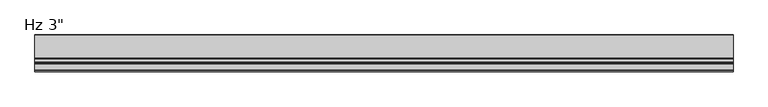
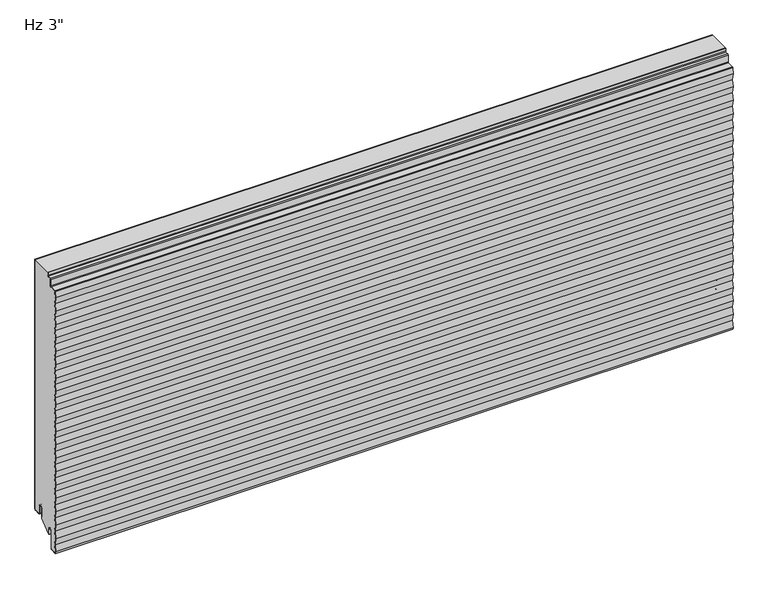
"""IFC4 building model written with IfcOpenShell, lengths in millimetres: plate geometry."""

from ifc_helpers import new_model, si_unit, point, frame, frame_2d, origin, place, context, project, spatial, polyline, circle_curve, trimmed, segment, composite_curve, outline, extrude, source, transform, mapped, element, save


def plate_cbad6302(model_context):
    return source(origin(), model_context, "Body", "SweptSolid", [
        extrude(outline(composite_curve([segment(trimmed(circle_curve(frame_2d((-21.43125, 19.05)), 4.96875), [point((-16.4625, 19.05))], [point((-26.4, 19.05))], True, "CARTESIAN"), True, "CONTINUOUS"), segment(polyline([(-26.4, 19.05), (-26.4, -3.1323422), (-49.2157227, -23.01875), (-50.8, -23.01875), (-50.8, -13.5080174), (-51.59375, -13.5080174), (-51.3875, -11.9205174)]), True, "CONTINUOUS"), segment(trimmed(circle_curve(frame_2d((-56.35625, -11.9205174)), 4.96875), [point((-51.3875, -11.9205174))], [point((-61.325, -11.9205174))], True, "CARTESIAN"), True, "CONTINUOUS"), segment(polyline([(-61.325, -11.9205174), (-61.325, -50.1038221)]), True, "CONTINUOUS"), segment(trimmed(circle_curve(frame_2d((-62.70625, -50.1038221)), 1.38125), [point((-61.325, -50.1038221))], [point((-62.633961, -51.4831791))], False, "CARTESIAN"), True, "CONTINUOUS"), segment(polyline([(-62.633961, -51.4831791), (-75.8062471, -52.1735094), (-76.3378194, -48.8511825), (-73.8994194, -33.6111825), (-76.3378194, -18.3711825), (-73.8994194, -3.1311825), (-76.3378194, 12.1088175), (-73.8994194, 27.3488175), (-76.3378194, 42.5888175), (-73.8994194, 57.8288175), (-76.3378194, 73.0688175), (-73.8994194, 88.3088175), (-76.3378194, 103.5488175), (-73.8994194, 118.7888175), (-76.3378194, 134.0288175), (-73.8994194, 149.2688175), (-76.3378194, 164.5088175), (-73.8994194, 179.7488175), (-76.3378194, 194.9888175), (-73.8994194, 210.2288175), (-76.3378194, 225.4688175), (-73.8994194, 240.7088175), (-76.3378194, 255.9488175), (-73.8994194, 271.1888175), (-76.3378194, 286.4288175), (-73.8994194, 301.6688175), (-76.3378194, 316.9088175), (-73.8994194, 332.1488175), (-76.3378194, 347.3888175), (-73.8994194, 362.6288175), (-76.3378194, 377.8688175), (-73.8994194, 393.1088175), (-76.3378194, 408.3488175), (-73.8994194, 423.5888175), (-76.3378194, 438.8288175), (-73.8994194, 454.0688175), (-76.3378194, 469.3088175), (-73.8994194, 484.5488175), (-76.3378194, 499.7888175), (-73.8994194, 515.0288175), (-76.3054086, 530.06625), (-74.2673048, 542.8043985), (-60.1895807, 543.5421807)]), True, "CONTINUOUS"), segment(trimmed(circle_curve(frame_2d((-60.325, 546.1261347)), 2.5875), [point((-60.1895807, 543.5421807))], [point((-57.7375, 546.1261347))], True, "CARTESIAN"), True, "CONTINUOUS"), segment(polyline([(-57.7375, 546.1261347), (-57.7375, 560.2824411)]), True, "CONTINUOUS"), segment(trimmed(circle_curve(frame_2d((-56.35625, 560.2824411)), 1.38125), [point((-57.7375, 560.2824411))], [point((-56.428539, 561.6617981))], False, "CARTESIAN"), True, "CONTINUOUS"), segment(polyline([(-56.428539, 561.6617981), (-50.6645807, 561.9638744)]), True, "CONTINUOUS"), segment(trimmed(circle_curve(frame_2d((-50.8, 564.5478283)), 2.5875), [point((-50.6645807, 561.9638744))], [point((-48.2125, 564.5478283))], True, "CARTESIAN"), True, "CONTINUOUS"), segment(polyline([(-48.2125, 564.5478283), (-48.2125, 571.2), (-1.0, 571.2), (-1.0, 3.175)]), True, "CONTINUOUS"), segment(trimmed(circle_curve(frame_2d((-2.38125, 3.175)), 1.38125), [point((-1.0, 3.175))], [point((-2.38125, 1.79375))], False, "CARTESIAN"), True, "CONTINUOUS"), segment(polyline([(-2.38125, 1.79375), (-15.08125, 1.79375)]), True, "CONTINUOUS"), segment(trimmed(circle_curve(frame_2d((-15.08125, 3.175)), 1.38125), [point((-15.08125, 1.79375))], [point((-16.4625, 3.175))], False, "CARTESIAN"), True, "CONTINUOUS"), segment(polyline([(-16.4625, 3.175), (-16.4625, 19.05)]), True, "CONTINUOUS")], self_intersect=False)), frame((-730.0, 0.0, 0.0), z_axis=(1.0, 0.0, 0.0), x_axis=(0.0, 1.0, 0.0)), (0.0, 0.0, 1.0), 1460.0),
        extrude(outline(composite_curve([segment(polyline([(-25.4, 0.79375), (-26.4, 0.79375), (-26.4, 19.05)]), True, "CONTINUOUS"), segment(trimmed(circle_curve(frame_2d((-21.43125, 19.05)), 4.96875), [point((-26.4, 19.05))], [point((-16.4625, 19.05))], False, "CARTESIAN"), True, "CONTINUOUS"), segment(polyline([(-16.4625, 19.05), (-16.4625, 3.175)]), True, "CONTINUOUS"), segment(trimmed(circle_curve(frame_2d((-15.08125, 3.175)), 1.38125), [point((-16.4625, 3.175))], [point((-15.08125, 1.79375))], True, "CARTESIAN"), True, "CONTINUOUS"), segment(polyline([(-15.08125, 1.79375), (-2.38125, 1.79375)]), True, "CONTINUOUS"), segment(trimmed(circle_curve(frame_2d((-2.38125, 3.175)), 1.38125), [point((-2.38125, 1.79375))], [point((-1.0, 3.175))], True, "CARTESIAN"), True, "CONTINUOUS"), segment(polyline([(-1.0, 3.175), (-1.0, 571.2), (0.0, 571.2), (0.0, 3.175)]), True, "CONTINUOUS"), segment(trimmed(circle_curve(frame_2d((-2.38125, 3.175)), 2.38125), [point((0.0, 3.175))], [point((-2.38125, 0.79375))], False, "CARTESIAN"), True, "CONTINUOUS"), segment(polyline([(-2.38125, 0.79375), (-15.08125, 0.79375)]), True, "CONTINUOUS"), segment(trimmed(circle_curve(frame_2d((-15.08125, 3.175)), 2.38125), [point((-15.08125, 0.79375))], [point((-17.4625, 3.175))], False, "CARTESIAN"), True, "CONTINUOUS"), segment(polyline([(-17.4625, 3.175), (-17.4625, 19.05)]), True, "CONTINUOUS"), segment(trimmed(circle_curve(frame_2d((-21.43125, 19.05)), 3.96875), [point((-17.4625, 19.05))], [point((-25.4, 19.05))], True, "CARTESIAN"), True, "CONTINUOUS"), segment(polyline([(-25.4, 19.05), (-25.4, 0.79375)]), True, "CONTINUOUS")], self_intersect=False)), frame((-730.0, 0.0, 0.0), z_axis=(1.0, 0.0, 0.0), x_axis=(0.0, 1.0, 0.0)), (0.0, 0.0, 1.0), 1460.0),
        extrude(outline(composite_curve([segment(trimmed(circle_curve(frame_2d((-51.59375, -23.2314549)), 0.79375), [point((-50.8, -23.2314549))], [point((-52.3875, -23.2314549))], False, "CARTESIAN"), True, "CONTINUOUS"), segment(polyline([(-52.3875, -23.2314549), (-52.3875, -11.9205174)]), True, "CONTINUOUS"), segment(trimmed(circle_curve(frame_2d((-56.35625, -11.9205174)), 3.96875), [point((-52.3875, -11.9205174))], [point((-60.325, -11.9205174))], True, "CARTESIAN"), True, "CONTINUOUS"), segment(polyline([(-60.325, -11.9205174), (-60.325, -50.1038221)]), True, "CONTINUOUS"), segment(trimmed(circle_curve(frame_2d((-62.70625, -50.1038221)), 2.38125), [point((-60.325, -50.1038221))], [point((-62.581625, -52.4818086))], False, "CARTESIAN"), True, "CONTINUOUS"), segment(polyline([(-62.581625, -52.4818086), (-76.7543553, -53.22457), (-77.4509395, -48.8709186), (-75.0125395, -33.6309186), (-77.4509395, -18.3909186), (-75.0125395, -3.1509186), (-77.4509395, 12.0890814), (-75.0125395, 27.3290814), (-77.4509395, 42.5690814), (-75.0125395, 57.8090814), (-77.4509395, 73.0490814), (-75.0125395, 88.2890814), (-77.4509395, 103.5290814), (-75.0125395, 118.7690814), (-77.4509395, 134.0090814), (-75.0125395, 149.2490814), (-77.4509395, 164.4890814), (-75.0125395, 179.7290814), (-77.4509395, 194.9690814), (-75.0125395, 210.2090814), (-77.4509395, 225.4490814), (-75.0125395, 240.6890814), (-77.4509395, 255.9290814), (-75.0125395, 271.1690814), (-77.4509395, 286.4090814), (-75.0125395, 301.6490814), (-77.4509395, 316.8890814), (-75.0125395, 332.1290814), (-77.4509395, 347.3690814), (-75.0125395, 362.6090814), (-77.4509395, 377.8490814), (-75.0125395, 393.0890814), (-77.4509395, 408.3290814), (-75.0125395, 423.5690814), (-77.4509395, 438.8090814), (-75.0125395, 454.0490814), (-77.4509395, 469.2890814), (-75.0125395, 484.5290814), (-77.4509395, 499.7690814), (-75.0125395, 515.0090814), (-77.4185287, 530.0465139), (-75.4278537, 542.4882328)]), True, "CONTINUOUS"), segment(trimmed(circle_curve(frame_2d((-73.8602917, 542.2374229)), 1.5875), [point((-75.4278537, 542.4882328))], [point((-73.943375, 543.8227473))], False, "CARTESIAN"), True, "CONTINUOUS"), segment(polyline([(-73.943375, 543.8227473), (-60.2419167, 544.5408103)]), True, "CONTINUOUS"), segment(trimmed(circle_curve(frame_2d((-60.325, 546.1261347)), 1.5875), [point((-60.2419167, 544.5408103))], [point((-58.7375, 546.1261347))], True, "CARTESIAN"), True, "CONTINUOUS"), segment(polyline([(-58.7375, 546.1261347), (-58.7375, 560.2824411)]), True, "CONTINUOUS"), segment(trimmed(circle_curve(frame_2d((-56.35625, 560.2824411)), 2.38125), [point((-58.7375, 560.2824411))], [point((-56.480875, 562.6604276))], False, "CARTESIAN"), True, "CONTINUOUS"), segment(polyline([(-56.480875, 562.6604276), (-50.7169167, 562.9625039)]), True, "CONTINUOUS"), segment(trimmed(circle_curve(frame_2d((-50.8, 564.5478283)), 1.5875), [point((-50.7169167, 562.9625039))], [point((-49.2125, 564.5478283))], True, "CARTESIAN"), True, "CONTINUOUS"), segment(polyline([(-49.2125, 564.5478283), (-49.2125, 571.2), (-48.2125, 571.2), (-48.2125, 564.5478283)]), True, "CONTINUOUS"), segment(trimmed(circle_curve(frame_2d((-50.8, 564.5478283)), 2.5875), [point((-48.2125, 564.5478283))], [point((-50.6645807, 561.9638744))], False, "CARTESIAN"), True, "CONTINUOUS"), segment(polyline([(-50.6645807, 561.9638744), (-56.428539, 561.6617981)]), True, "CONTINUOUS"), segment(trimmed(circle_curve(frame_2d((-56.35625, 560.2824411)), 1.38125), [point((-56.428539, 561.6617981))], [point((-57.7375, 560.2824411))], True, "CARTESIAN"), True, "CONTINUOUS"), segment(polyline([(-57.7375, 560.2824411), (-57.7375, 546.1261347)]), True, "CONTINUOUS"), segment(trimmed(circle_curve(frame_2d((-60.325, 546.1261347)), 2.5875), [point((-57.7375, 546.1261347))], [point((-60.1895807, 543.5421807))], False, "CARTESIAN"), True, "CONTINUOUS"), segment(polyline([(-60.1895807, 543.5421807), (-73.891039, 542.8241177)]), True, "CONTINUOUS"), segment(trimmed(circle_curve(frame_2d((-73.8602917, 542.2374229)), 0.5875), [point((-73.891039, 542.8241177))], [point((-74.440413, 542.3302423))], True, "CARTESIAN"), True, "CONTINUOUS"), segment(polyline([(-74.440413, 542.3302423), (-76.4058096, 530.0465139), (-73.9998204, 515.0090814), (-76.4382204, 499.7690814), (-73.9998204, 484.5290814), (-76.4382204, 469.2890814), (-73.9998204, 454.0490814), (-76.4382204, 438.8090814), (-73.9998204, 423.5690814), (-76.4382204, 408.3290814), (-73.9998204, 393.0890814), (-76.4382204, 377.8490814), (-73.9998204, 362.6090814), (-76.4382204, 347.3690814), (-73.9998204, 332.1290814), (-76.4382204, 316.8890814), (-73.9998204, 301.6490814), (-76.4382204, 286.4090814), (-73.9998204, 271.1690814), (-76.4382204, 255.9290814), (-73.9998204, 240.6890814), (-76.4382204, 225.4490814), (-73.9998204, 210.2090814), (-76.4382204, 194.9690814), (-73.9998204, 179.7290814), (-76.4382204, 164.4890814), (-73.9998204, 149.2490814), (-76.4382204, 134.0090814), (-73.9998204, 118.7690814), (-76.4382204, 103.5290814), (-73.9998204, 88.2890814), (-76.4382204, 73.0490814), (-73.9998204, 57.8090814), (-76.4382204, 42.5690814), (-73.9998204, 27.3290814), (-76.4382204, 12.0890814), (-73.9998204, -3.1509186), (-76.4382204, -18.3909186), (-73.9998204, -33.6309186), (-76.4382204, -48.8709186), (-75.9089447, -52.1788915), (-62.633961, -51.4831791)]), True, "CONTINUOUS"), segment(trimmed(circle_curve(frame_2d((-62.70625, -50.1038221)), 1.38125), [point((-62.633961, -51.4831791))], [point((-61.325, -50.1038221))], True, "CARTESIAN"), True, "CONTINUOUS"), segment(polyline([(-61.325, -50.1038221), (-61.325, -11.9205174)]), True, "CONTINUOUS"), segment(trimmed(circle_curve(frame_2d((-56.35625, -11.9205174)), 4.96875), [point((-61.325, -11.9205174))], [point((-51.3875, -11.9205174))], False, "CARTESIAN"), True, "CONTINUOUS"), segment(polyline([(-51.3875, -11.9205174), (-51.59375, -13.5080174), (-50.8, -13.5080174), (-50.8, -23.2314549)]), True, "CONTINUOUS")], self_intersect=False)), frame((-730.0, 0.0, 0.0), z_axis=(1.0, 0.0, 0.0), x_axis=(0.0, 1.0, 0.0)), (0.0, 0.0, 1.0), 1460.0),
    ])


if __name__ == "__main__":
    model = new_model("IFC4")
    model_context = context("Model", 3, world=origin())
    ifc_project = project(units=[si_unit("LENGTHUNIT", "METRE", prefix="MILLI")], contexts=[model_context])
    site = spatial("IfcSite", under=ifc_project)
    building = spatial("IfcBuilding", under=site)
    placement = place(None, origin())
    plate_shape = plate_cbad6302(model_context)
    element("IfcPlate", 1, ObjectType="KIP-24-DWHR-R19-CP-Hz-S : Hz 3\"", at=placement, inside=building, context=model_context, shape_type="MappedRepresentation", body=[
        mapped(plate_shape, transform((0.0, 0.0, 0.0), x_axis=(1.0, 0.0, 0.0), y_axis=(0.0, 1.0, 0.0), z_axis=(0.0, 0.0, 1.0))),
    ])
    save(model, "model.ifc")
